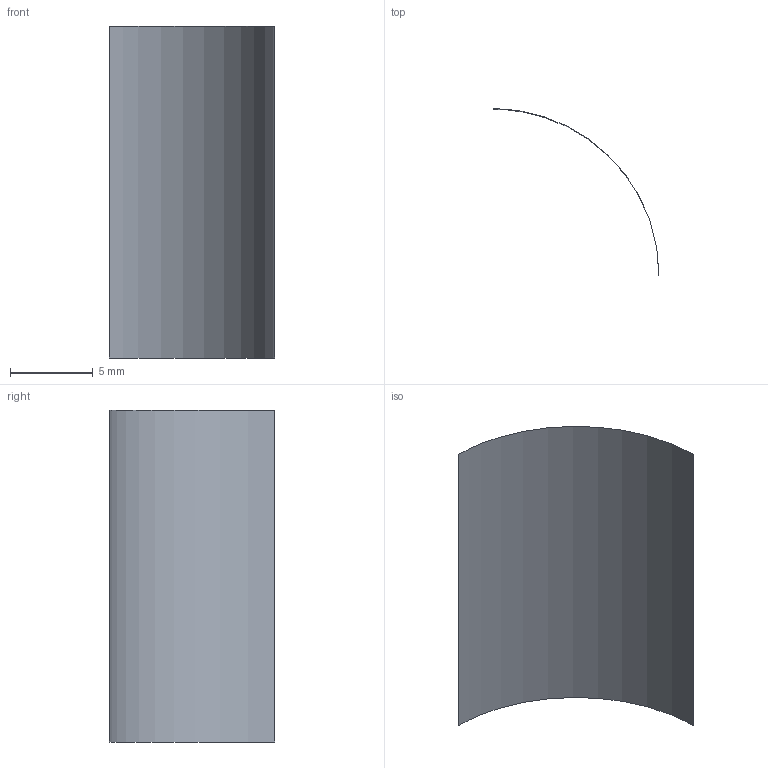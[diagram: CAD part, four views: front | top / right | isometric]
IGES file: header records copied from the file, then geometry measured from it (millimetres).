
Start section: CoreLinks independently authored surface
Global section: file name: quarter-cylinder-mm.iges; native system: CoreLinks; preprocessor: CoreLinks; author: CoreLinks; organization: CoreLinks; date: 20261005.000000; units: millimetre
Bounding box: 10 x 10 x 20 mm (x, y, z)
Surface area: 314.2 mm2 (no closed solid volume)
Topology: 0 solids, 0 shells, 1 faces, 4 edges, 4 vertices
Faces by surface type: bspline 1
